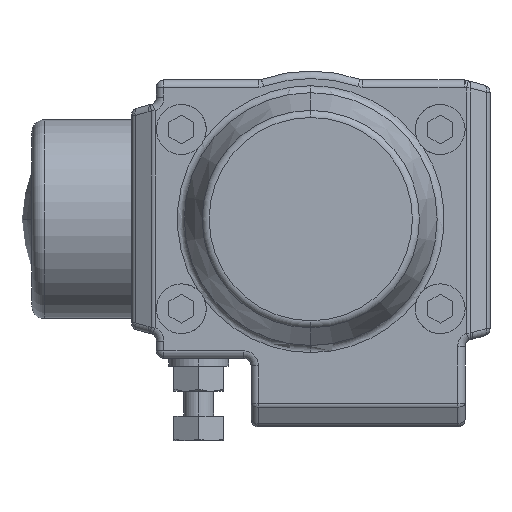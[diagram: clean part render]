
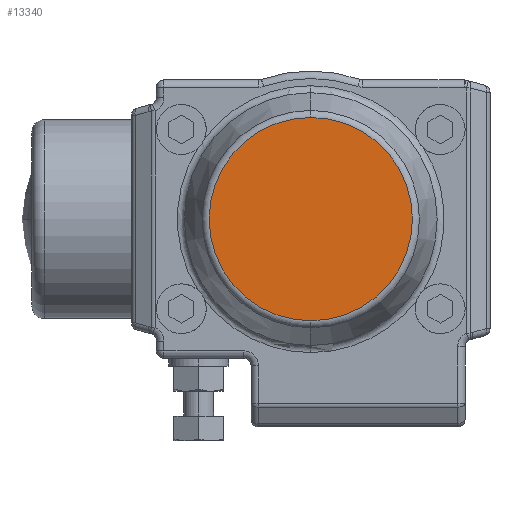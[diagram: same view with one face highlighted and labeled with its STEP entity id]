
A CAD part, left-side view. The second image highlights one B-rep face of the part: STEP entity #13340.
In plain terms, the highlighted planar face has unit normal (-1, 0, 0).
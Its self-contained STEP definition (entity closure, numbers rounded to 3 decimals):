
#189 = AXIS2_PLACEMENT_3D ( 'NONE', #446, #6769, #1793 ) ;
#342 = DIRECTION ( 'NONE',  ( 0., 0., -1. ) ) ;
#446 = CARTESIAN_POINT ( 'NONE',  ( -73.5, 0., 0. ) ) ;
#896 = EDGE_LOOP ( 'NONE', ( #4101, #11342 ) ) ;
#1071 = AXIS2_PLACEMENT_3D ( 'NONE', #5727, #10832, #5048 ) ;
#1793 = DIRECTION ( 'NONE',  ( 0., 0., 1. ) ) ;
#1892 = AXIS2_PLACEMENT_3D ( 'NONE', #12910, #12969, #342 ) ;
#4101 = ORIENTED_EDGE ( 'NONE', *, *, #9626, .T. ) ;
#4985 = CARTESIAN_POINT ( 'NONE',  ( -73.5, 0., 20.419 ) ) ;
#5048 = DIRECTION ( 'NONE',  ( 0., 0., 1. ) ) ;
#5220 = VERTEX_POINT ( 'NONE', #7287 ) ;
#5727 = CARTESIAN_POINT ( 'NONE',  ( -73.5, 0., 0. ) ) ;
#5786 = CIRCLE ( 'NONE', #1071, 20.419 ) ;
#6563 = CIRCLE ( 'NONE', #189, 20.419 ) ;
#6769 = DIRECTION ( 'NONE',  ( -1., 0., 0. ) ) ;
#7287 = CARTESIAN_POINT ( 'NONE',  ( -73.5, 0., -20.419 ) ) ;
#9626 = EDGE_CURVE ( 'NONE', #13657, #5220, #5786, .T. ) ;
#9665 = FACE_OUTER_BOUND ( 'NONE', #896, .T. ) ;
#10091 = PLANE ( 'NONE',  #1892 ) ;
#10832 = DIRECTION ( 'NONE',  ( -1., 0., 0. ) ) ;
#11342 = ORIENTED_EDGE ( 'NONE', *, *, #15574, .T. ) ;
#12910 = CARTESIAN_POINT ( 'NONE',  ( -73.5, 0., 0. ) ) ;
#12969 = DIRECTION ( 'NONE',  ( -1., 0., 0. ) ) ;
#13340 = ADVANCED_FACE ( 'NONE', ( #9665 ), #10091, .T. ) ;
#13657 = VERTEX_POINT ( 'NONE', #4985 ) ;
#15574 = EDGE_CURVE ( 'NONE', #5220, #13657, #6563, .T. ) ;
